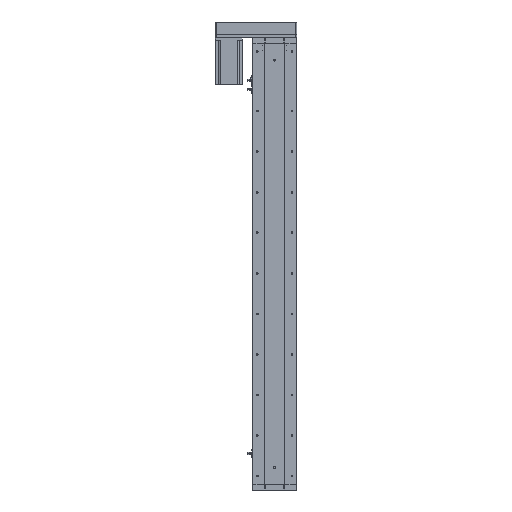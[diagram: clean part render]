
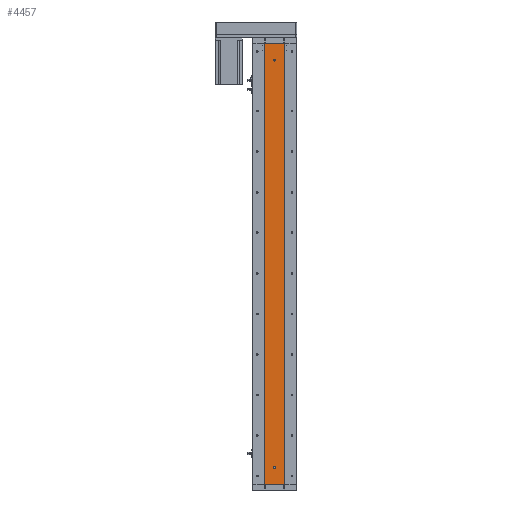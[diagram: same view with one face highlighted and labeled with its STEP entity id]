
A CAD part, left-side view. The second image highlights one B-rep face of the part: STEP entity #4457.
In plain terms, the highlighted planar face has unit normal (-1, 0, 0).
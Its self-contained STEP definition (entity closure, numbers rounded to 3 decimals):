
#1320 = VERTEX_POINT ( 'NONE', #3548 ) ;
#1402 = CARTESIAN_POINT ( 'NONE',  ( -24.994, 29.785, 1306. ) ) ;
#1557 = VECTOR ( 'NONE', #39087, 1000. ) ;
#2492 = DIRECTION ( 'NONE',  ( 0., -1., 0. ) ) ;
#3548 = CARTESIAN_POINT ( 'NONE',  ( -24.994, 0., 47. ) ) ;
#3961 = CARTESIAN_POINT ( 'NONE',  ( -24.994, 0., 1256. ) ) ;
#4457 = ADVANCED_FACE ( 'NONE', ( #37003, #5780, #16230 ), #30997, .F. ) ;
#4629 = VERTEX_POINT ( 'NONE', #21522 ) ;
#5780 = FACE_BOUND ( 'NONE', #38367, .T. ) ;
#6841 = EDGE_CURVE ( 'NONE', #23812, #39599, #30680, .T. ) ;
#7285 = CARTESIAN_POINT ( 'NONE',  ( -24.994, 0., 1259. ) ) ;
#7893 = DIRECTION ( 'NONE',  ( 0., 0., 1. ) ) ;
#8029 = ORIENTED_EDGE ( 'NONE', *, *, #15190, .T. ) ;
#8261 = CARTESIAN_POINT ( 'NONE',  ( -24.994, -29.785, 1306. ) ) ;
#9676 = CARTESIAN_POINT ( 'NONE',  ( -24.994, 0., 50. ) ) ;
#10097 = VECTOR ( 'NONE', #40985, 1000. ) ;
#10842 = AXIS2_PLACEMENT_3D ( 'NONE', #3961, #31384, #7893 ) ;
#11873 = CARTESIAN_POINT ( 'NONE',  ( -24.994, -29.785, 1306. ) ) ;
#12000 = LINE ( 'NONE', #11873, #1557 ) ;
#13502 = ORIENTED_EDGE ( 'NONE', *, *, #6841, .F. ) ;
#13629 = DIRECTION ( 'NONE',  ( 0., 0., 1. ) ) ;
#13727 = EDGE_CURVE ( 'NONE', #39599, #23812, #28756, .T. ) ;
#13997 = DIRECTION ( 'NONE',  ( 0., 0., -1. ) ) ;
#15190 = EDGE_CURVE ( 'NONE', #37946, #4629, #20555, .T. ) ;
#15413 = EDGE_CURVE ( 'NONE', #4629, #49303, #49313, .T. ) ;
#16230 = FACE_OUTER_BOUND ( 'NONE', #17732, .T. ) ;
#17294 = VECTOR ( 'NONE', #2492, 1000. ) ;
#17732 = EDGE_LOOP ( 'NONE', ( #18289, #38555, #38578, #8029 ) ) ;
#18241 = CIRCLE ( 'NONE', #37849, 3. ) ;
#18289 = ORIENTED_EDGE ( 'NONE', *, *, #15413, .T. ) ;
#18925 = CIRCLE ( 'NONE', #26730, 3. ) ;
#20000 = VERTEX_POINT ( 'NONE', #30894 ) ;
#20555 = LINE ( 'NONE', #44764, #10097 ) ;
#21522 = CARTESIAN_POINT ( 'NONE',  ( -24.994, 29.785, 0. ) ) ;
#22030 = CARTESIAN_POINT ( 'NONE',  ( -24.994, 29.785, 1306. ) ) ;
#22768 = DIRECTION ( 'NONE',  ( -1., 0., 0. ) ) ;
#22916 = CARTESIAN_POINT ( 'NONE',  ( -24.994, 0., 50. ) ) ;
#23614 = DIRECTION ( 'NONE',  ( 1., 0., 0. ) ) ;
#23775 = CARTESIAN_POINT ( 'NONE',  ( -24.994, -29.785, 0. ) ) ;
#23812 = VERTEX_POINT ( 'NONE', #7285 ) ;
#24808 = ORIENTED_EDGE ( 'NONE', *, *, #13727, .F. ) ;
#26041 = EDGE_LOOP ( 'NONE', ( #13502, #24808 ) ) ;
#26730 = AXIS2_PLACEMENT_3D ( 'NONE', #22916, #50347, #26883 ) ;
#26883 = DIRECTION ( 'NONE',  ( 0., 0., 1. ) ) ;
#27714 = LINE ( 'NONE', #22030, #17294 ) ;
#27907 = VERTEX_POINT ( 'NONE', #8261 ) ;
#28476 = VECTOR ( 'NONE', #42676, 1000. ) ;
#28756 = CIRCLE ( 'NONE', #10842, 3. ) ;
#28877 = EDGE_CURVE ( 'NONE', #1320, #20000, #18925, .T. ) ;
#29210 = EDGE_CURVE ( 'NONE', #20000, #1320, #18241, .T. ) ;
#29996 = CARTESIAN_POINT ( 'NONE',  ( -24.994, 0., 1256. ) ) ;
#30680 = CIRCLE ( 'NONE', #31014, 3. ) ;
#30894 = CARTESIAN_POINT ( 'NONE',  ( -24.994, 0., 53. ) ) ;
#30997 = PLANE ( 'NONE',  #38388 ) ;
#31014 = AXIS2_PLACEMENT_3D ( 'NONE', #29996, #22768, #46645 ) ;
#31384 = DIRECTION ( 'NONE',  ( -1., 0., 0. ) ) ;
#31645 = CARTESIAN_POINT ( 'NONE',  ( -24.994, 29.785, 1306. ) ) ;
#34693 = CARTESIAN_POINT ( 'NONE',  ( -24.994, 0., 1253. ) ) ;
#37003 = FACE_BOUND ( 'NONE', #26041, .T. ) ;
#37063 = DIRECTION ( 'NONE',  ( -1., 0., 0. ) ) ;
#37297 = EDGE_CURVE ( 'NONE', #37946, #27907, #27714, .T. ) ;
#37849 = AXIS2_PLACEMENT_3D ( 'NONE', #9676, #37063, #13629 ) ;
#37946 = VERTEX_POINT ( 'NONE', #31645 ) ;
#38116 = ORIENTED_EDGE ( 'NONE', *, *, #28877, .F. ) ;
#38367 = EDGE_LOOP ( 'NONE', ( #39015, #38116 ) ) ;
#38388 = AXIS2_PLACEMENT_3D ( 'NONE', #1402, #23614, #13997 ) ;
#38555 = ORIENTED_EDGE ( 'NONE', *, *, #38562, .F. ) ;
#38562 = EDGE_CURVE ( 'NONE', #27907, #49303, #12000, .T. ) ;
#38578 = ORIENTED_EDGE ( 'NONE', *, *, #37297, .F. ) ;
#38735 = CARTESIAN_POINT ( 'NONE',  ( -24.994, 29.785, 0. ) ) ;
#39015 = ORIENTED_EDGE ( 'NONE', *, *, #29210, .F. ) ;
#39087 = DIRECTION ( 'NONE',  ( 0., 0., -1. ) ) ;
#39599 = VERTEX_POINT ( 'NONE', #34693 ) ;
#40985 = DIRECTION ( 'NONE',  ( 0., 0., -1. ) ) ;
#42676 = DIRECTION ( 'NONE',  ( 0., -1., 0. ) ) ;
#44764 = CARTESIAN_POINT ( 'NONE',  ( -24.994, 29.785, 1306. ) ) ;
#46645 = DIRECTION ( 'NONE',  ( 0., 0., 1. ) ) ;
#49303 = VERTEX_POINT ( 'NONE', #23775 ) ;
#49313 = LINE ( 'NONE', #38735, #28476 ) ;
#50347 = DIRECTION ( 'NONE',  ( -1., 0., 0. ) ) ;
